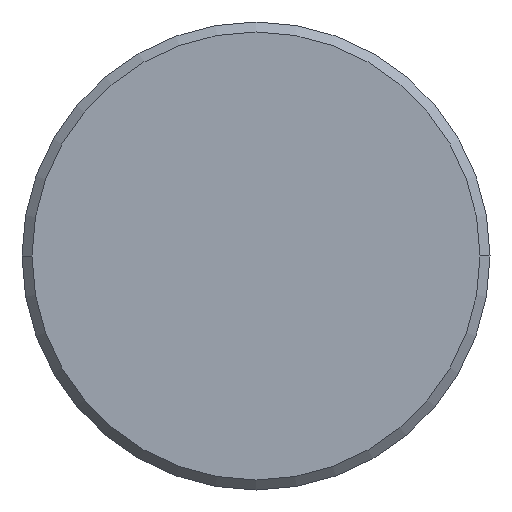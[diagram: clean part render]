
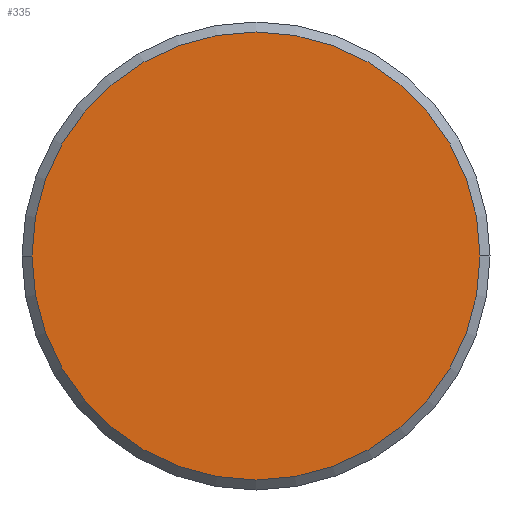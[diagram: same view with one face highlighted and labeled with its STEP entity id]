
A CAD part, left-side view. The second image highlights one B-rep face of the part: STEP entity #335.
In plain terms, the highlighted planar face has unit normal (-1, 0, 0).
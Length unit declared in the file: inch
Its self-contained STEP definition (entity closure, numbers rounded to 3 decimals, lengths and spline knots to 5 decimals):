
#7 = AXIS2_PLACEMENT_3D ( 'NONE', #257, #260, #310 ) ;
#11 = EDGE_CURVE ( 'NONE', #327, #19, #361, .T. ) ;
#18 = DIRECTION ( 'NONE',  ( 0., -1., 0. ) ) ;
#19 = VERTEX_POINT ( 'NONE', #237 ) ;
#35 = CARTESIAN_POINT ( 'NONE',  ( 0., 0., 0. ) ) ;
#60 = FACE_OUTER_BOUND ( 'NONE', #357, .T. ) ;
#81 = CARTESIAN_POINT ( 'NONE',  ( 0., 0., 0. ) ) ;
#136 = EDGE_CURVE ( 'NONE', #19, #327, #381, .T. ) ;
#140 = AXIS2_PLACEMENT_3D ( 'NONE', #35, #259, #18 ) ;
#147 = DIRECTION ( 'NONE',  ( 0., -1., 0. ) ) ;
#170 = AXIS2_PLACEMENT_3D ( 'NONE', #81, #320, #147 ) ;
#175 = PLANE ( 'NONE',  #7 ) ;
#237 = CARTESIAN_POINT ( 'NONE',  ( 0., 0.08975, 0. ) ) ;
#238 = ORIENTED_EDGE ( 'NONE', *, *, #136, .T. ) ;
#257 = CARTESIAN_POINT ( 'NONE',  ( 0., 0., 0. ) ) ;
#259 = DIRECTION ( 'NONE',  ( -1., 0., 0. ) ) ;
#260 = DIRECTION ( 'NONE',  ( -1., 0., 0. ) ) ;
#270 = CARTESIAN_POINT ( 'NONE',  ( 0., -0.08975, 0. ) ) ;
#310 = DIRECTION ( 'NONE',  ( 0., -1., 0. ) ) ;
#320 = DIRECTION ( 'NONE',  ( -1., 0., 0. ) ) ;
#327 = VERTEX_POINT ( 'NONE', #270 ) ;
#335 = ADVANCED_FACE ( 'NONE', ( #60 ), #175, .T. ) ;
#357 = EDGE_LOOP ( 'NONE', ( #238, #367 ) ) ;
#361 = CIRCLE ( 'NONE', #140, 0.08975 ) ;
#367 = ORIENTED_EDGE ( 'NONE', *, *, #11, .T. ) ;
#381 = CIRCLE ( 'NONE', #170, 0.08975 ) ;
